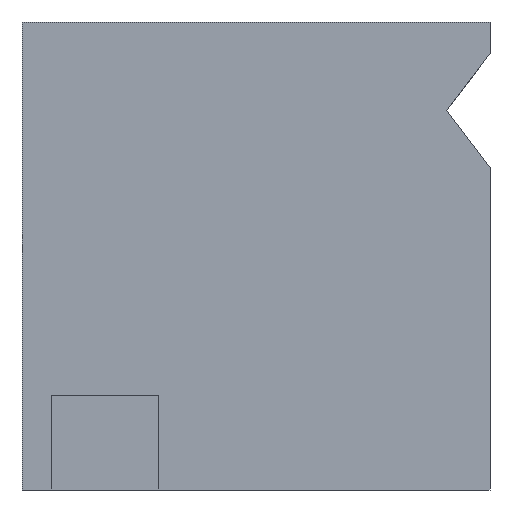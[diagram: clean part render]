
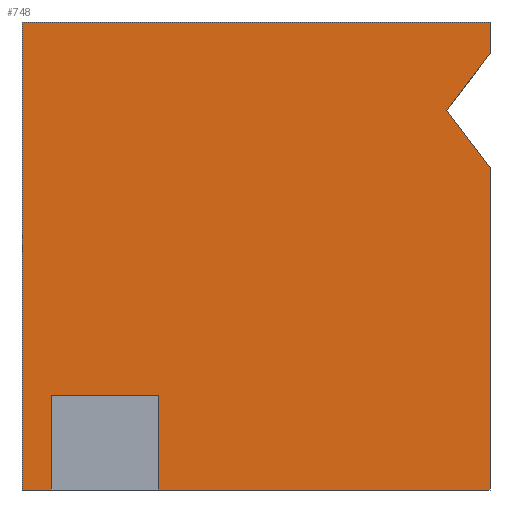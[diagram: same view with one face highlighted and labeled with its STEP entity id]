
A CAD part, front view. The second image highlights one B-rep face of the part: STEP entity #748.
In plain terms, the highlighted planar face has unit normal (0, -1, 0).
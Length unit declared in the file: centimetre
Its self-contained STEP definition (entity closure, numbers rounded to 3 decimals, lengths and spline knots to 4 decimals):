
#7 = CARTESIAN_POINT ( 'NONE',  ( 1000., 0., 1000. ) ) ;
#24 = LINE ( 'NONE', #1049, #280 ) ;
#31 = VECTOR ( 'NONE', #514, 100. ) ;
#36 = CARTESIAN_POINT ( 'NONE',  ( 0., 0., 0. ) ) ;
#43 = EDGE_CURVE ( 'NONE', #709, #437, #306, .T. ) ;
#54 = CARTESIAN_POINT ( 'NONE',  ( 907.242, 0., 810.8481 ) ) ;
#67 = EDGE_LOOP ( 'NONE', ( #1064, #1030, #795, #1173, #1010, #568, #675, #698, #281, #680, #718 ) ) ;
#96 = VECTOR ( 'NONE', #646, 100. ) ;
#98 = EDGE_CURVE ( 'NONE', #446, #961, #209, .T. ) ;
#101 = VECTOR ( 'NONE', #313, 100. ) ;
#117 = FACE_OUTER_BOUND ( 'NONE', #67, .T. ) ;
#168 = DIRECTION ( 'NONE',  ( 1., 0., 0. ) ) ;
#174 = DIRECTION ( 'NONE',  ( 0., 0., 1. ) ) ;
#179 = EDGE_CURVE ( 'NONE', #1044, #606, #1014, .T. ) ;
#196 = EDGE_CURVE ( 'NONE', #349, #913, #537, .T. ) ;
#203 = CARTESIAN_POINT ( 'NONE',  ( 0., 0., 1000. ) ) ;
#209 = LINE ( 'NONE', #657, #96 ) ;
#210 = EDGE_CURVE ( 'NONE', #359, #437, #248, .T. ) ;
#212 = EDGE_CURVE ( 'NONE', #1044, #349, #1021, .T. ) ;
#214 = VECTOR ( 'NONE', #383, 100. ) ;
#220 = CARTESIAN_POINT ( 'NONE',  ( 1000., 0., 688.8962 ) ) ;
#224 = CARTESIAN_POINT ( 'NONE',  ( 1000., 0., 1000. ) ) ;
#230 = CARTESIAN_POINT ( 'NONE',  ( 62.1062, 0., 0. ) ) ;
#248 = LINE ( 'NONE', #1198, #741 ) ;
#263 = DIRECTION ( 'NONE',  ( 0.605, 0., 0.796 ) ) ;
#280 = VECTOR ( 'NONE', #962, 100. ) ;
#281 = ORIENTED_EDGE ( 'NONE', *, *, #212, .F. ) ;
#306 = LINE ( 'NONE', #224, #101 ) ;
#313 = DIRECTION ( 'NONE',  ( 0., 0., -1. ) ) ;
#321 = CARTESIAN_POINT ( 'NONE',  ( 291.4943, 0., 0. ) ) ;
#325 = VERTEX_POINT ( 'NONE', #220 ) ;
#349 = VERTEX_POINT ( 'NONE', #611 ) ;
#359 = VERTEX_POINT ( 'NONE', #54 ) ;
#367 = VECTOR ( 'NONE', #174, 100. ) ;
#381 = CARTESIAN_POINT ( 'NONE',  ( 0., 0., 1000. ) ) ;
#383 = DIRECTION ( 'NONE',  ( 0., 0., -1. ) ) ;
#403 = VECTOR ( 'NONE', #168, 100. ) ;
#437 = VERTEX_POINT ( 'NONE', #901 ) ;
#446 = VERTEX_POINT ( 'NONE', #36 ) ;
#456 = DIRECTION ( 'NONE',  ( 0., 0., -1. ) ) ;
#508 = LINE ( 'NONE', #794, #555 ) ;
#512 = DIRECTION ( 'NONE',  ( -0.605, 0., 0.796 ) ) ;
#514 = DIRECTION ( 'NONE',  ( -1., 0., 0. ) ) ;
#530 = CARTESIAN_POINT ( 'NONE',  ( 62.1062, 0., 202.6978 ) ) ;
#537 = LINE ( 'NONE', #530, #31 ) ;
#543 = CARTESIAN_POINT ( 'NONE',  ( 0., 0., 0. ) ) ;
#555 = VECTOR ( 'NONE', #456, 100. ) ;
#566 = CARTESIAN_POINT ( 'NONE',  ( 1000., 0., 0. ) ) ;
#568 = ORIENTED_EDGE ( 'NONE', *, *, #98, .T. ) ;
#581 = LINE ( 'NONE', #967, #781 ) ;
#606 = VERTEX_POINT ( 'NONE', #566 ) ;
#611 = CARTESIAN_POINT ( 'NONE',  ( 291.4943, 0., 202.6978 ) ) ;
#646 = DIRECTION ( 'NONE',  ( 1., 0., 0. ) ) ;
#652 = CARTESIAN_POINT ( 'NONE',  ( 62.1062, 0., 0. ) ) ;
#657 = CARTESIAN_POINT ( 'NONE',  ( 0., 0., 0. ) ) ;
#675 = ORIENTED_EDGE ( 'NONE', *, *, #682, .F. ) ;
#680 = ORIENTED_EDGE ( 'NONE', *, *, #179, .T. ) ;
#682 = EDGE_CURVE ( 'NONE', #913, #961, #1129, .T. ) ;
#698 = ORIENTED_EDGE ( 'NONE', *, *, #196, .F. ) ;
#709 = VERTEX_POINT ( 'NONE', #7 ) ;
#714 = EDGE_CURVE ( 'NONE', #780, #446, #581, .T. ) ;
#717 = CARTESIAN_POINT ( 'NONE',  ( 62.1062, 0., 202.6978 ) ) ;
#718 = ORIENTED_EDGE ( 'NONE', *, *, #1001, .F. ) ;
#741 = VECTOR ( 'NONE', #263, 100. ) ;
#748 = ADVANCED_FACE ( 'NONE', ( #117 ), #752, .F. ) ;
#752 = PLANE ( 'NONE',  #1094 ) ;
#758 = DIRECTION ( 'NONE',  ( 0., 1., 0. ) ) ;
#771 = VECTOR ( 'NONE', #512, 100. ) ;
#780 = VERTEX_POINT ( 'NONE', #203 ) ;
#781 = VECTOR ( 'NONE', #1040, 100. ) ;
#794 = CARTESIAN_POINT ( 'NONE',  ( 1000., 0., 1000. ) ) ;
#795 = ORIENTED_EDGE ( 'NONE', *, *, #43, .F. ) ;
#872 = DIRECTION ( 'NONE',  ( 0., 0., 1. ) ) ;
#881 = EDGE_CURVE ( 'NONE', #780, #709, #24, .T. ) ;
#901 = CARTESIAN_POINT ( 'NONE',  ( 1000., 0., 932.8 ) ) ;
#913 = VERTEX_POINT ( 'NONE', #717 ) ;
#961 = VERTEX_POINT ( 'NONE', #230 ) ;
#962 = DIRECTION ( 'NONE',  ( 1., 0., 0. ) ) ;
#967 = CARTESIAN_POINT ( 'NONE',  ( 0., 0., 1000. ) ) ;
#987 = LINE ( 'NONE', #1201, #771 ) ;
#996 = EDGE_CURVE ( 'NONE', #325, #359, #987, .T. ) ;
#1001 = EDGE_CURVE ( 'NONE', #325, #606, #508, .T. ) ;
#1010 = ORIENTED_EDGE ( 'NONE', *, *, #714, .T. ) ;
#1014 = LINE ( 'NONE', #543, #403 ) ;
#1021 = LINE ( 'NONE', #321, #367 ) ;
#1030 = ORIENTED_EDGE ( 'NONE', *, *, #210, .T. ) ;
#1040 = DIRECTION ( 'NONE',  ( 0., 0., -1. ) ) ;
#1044 = VERTEX_POINT ( 'NONE', #1200 ) ;
#1049 = CARTESIAN_POINT ( 'NONE',  ( 0., 0., 1000. ) ) ;
#1064 = ORIENTED_EDGE ( 'NONE', *, *, #996, .T. ) ;
#1094 = AXIS2_PLACEMENT_3D ( 'NONE', #381, #758, #872 ) ;
#1129 = LINE ( 'NONE', #652, #214 ) ;
#1173 = ORIENTED_EDGE ( 'NONE', *, *, #881, .F. ) ;
#1198 = CARTESIAN_POINT ( 'NONE',  ( 907.242, 0., 810.8481 ) ) ;
#1200 = CARTESIAN_POINT ( 'NONE',  ( 291.4943, 0., 0. ) ) ;
#1201 = CARTESIAN_POINT ( 'NONE',  ( 1000., 0., 688.8962 ) ) ;
